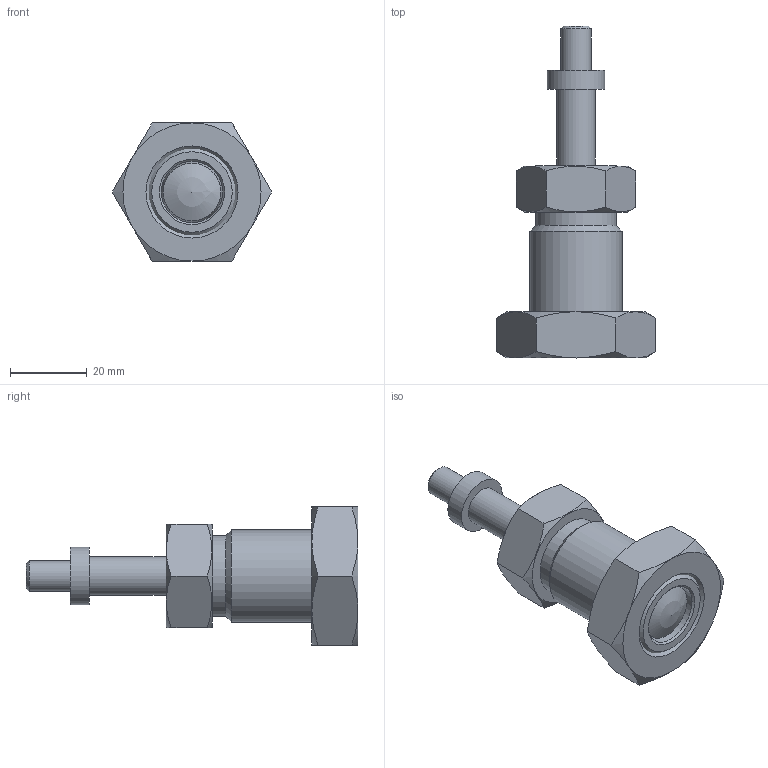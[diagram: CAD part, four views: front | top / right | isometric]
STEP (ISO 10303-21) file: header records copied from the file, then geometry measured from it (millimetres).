
FILE_DESCRIPTION( ( 'STEP AP203' ), '1' );
FILE_NAME( 'C:/Temp/Ganter_Step_05_03_2020/data/3_1/gn817/gn817_ni-rastbolzen/Stainless Steel-Indexing plunger GN 817-16-20-GK-NI (activated-0).stp', '2020-03-12T09:00:09', ( 'License CC BY-ND 4.0' ), ( 'CADENAS' ), ' ', 'PARTsolutions', ' ' );
FILE_SCHEMA( ( 'CONFIG_CONTROL_DESIGN' ) );
Length unit declared in the file: millimetre
Products named in the file (5): Stainless Steel-Indexing plunger GN 817-16-20-GK-NI (activated-0); _Stainless steel-Indexing plunger GN 817-16-20-GK-NI (activated-0)-d; _Stainless steel-Indexing plunger GN 817-16-20-B-NI-2; _Stainless Steel-Indexing plunger GN 817-16-20-G-NI-6; _Stainless steel-Indexing plunger GN 817-16-20-BK-NI (deactivated-0)-3
Assembly tree (4 placements, depth 2):
  Stainless Steel-Indexing plunger GN 817-16-20-GK-NI (activated-0)
    _Stainless steel-Indexing plunger GN 817-16-20-GK-NI (activated-0)-d
    _Stainless steel-Indexing plunger GN 817-16-20-B-NI-2
    _Stainless Steel-Indexing plunger GN 817-16-20-G-NI-6
    _Stainless steel-Indexing plunger GN 817-16-20-BK-NI (deactivated-0)-3
Bounding box: 41.57 x 86.5 x 36 mm (x, y, z)
Volume: 35636.6 mm3; surface area: 15130.1 mm2
Topology: 3 solids, 3 shells, 56 faces, 113 edges, 68 vertices
Faces by surface type: plane 22, cone 22, cylinder 9, torus 2, sphere 1
Full cylindrical faces by diameter (mm): 8 x1, 10 x1, 12 x1, 15 x1, 16 x2, 21 x1, 21.835 x1, 24 x1
Entity records: 1720 total; most frequent: CARTESIAN_POINT 517, DIRECTION 216, ORIENTED_EDGE 178, AXIS2_PLACEMENT_3D 102, EDGE_CURVE 89, EDGE_LOOP 86, FACE_OUTER_BOUND 67, VERTEX_POINT 66
